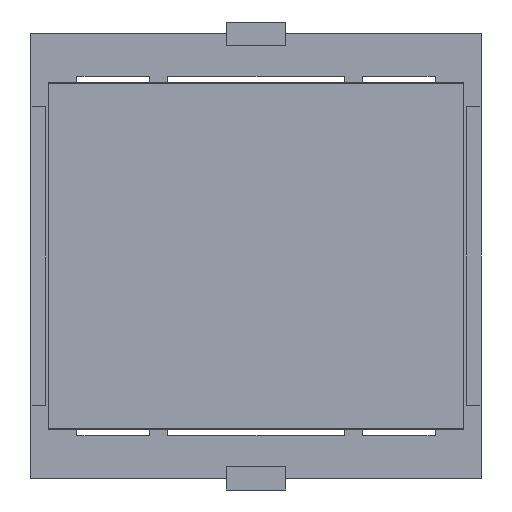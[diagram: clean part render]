
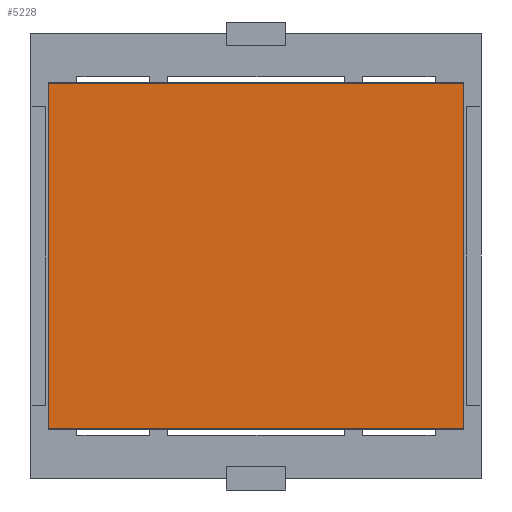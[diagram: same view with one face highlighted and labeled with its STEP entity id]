
A CAD part, front view. The second image highlights one B-rep face of the part: STEP entity #5228.
In plain terms, the highlighted planar face has unit normal (0, -1, 0).
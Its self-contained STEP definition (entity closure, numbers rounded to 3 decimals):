
#551 = EDGE_CURVE ( 'NONE', #4915, #5434, #3872, .T. ) ;
#577 = DIRECTION ( 'NONE',  ( 0., 0., 1. ) ) ;
#782 = ORIENTED_EDGE ( 'NONE', *, *, #6427, .F. ) ;
#1248 = CARTESIAN_POINT ( 'NONE',  ( -15.712, -18.701, 26.207 ) ) ;
#1826 = DIRECTION ( 'NONE',  ( 0., 1., 0. ) ) ;
#2024 = LINE ( 'NONE', #2562, #3904 ) ;
#2099 = CARTESIAN_POINT ( 'NONE',  ( 19.086, -18.701, 26.207 ) ) ;
#2246 = EDGE_LOOP ( 'NONE', ( #4911, #782, #6418, #5251 ) ) ;
#2267 = CARTESIAN_POINT ( 'NONE',  ( -15.712, -18.701, 26.207 ) ) ;
#2515 = EDGE_CURVE ( 'NONE', #5434, #5206, #2024, .T. ) ;
#2562 = CARTESIAN_POINT ( 'NONE',  ( 19.086, -18.701, -2.749 ) ) ;
#2840 = AXIS2_PLACEMENT_3D ( 'NONE', #2267, #1826, #5616 ) ;
#2943 = VECTOR ( 'NONE', #577, 1000. ) ;
#3438 = VECTOR ( 'NONE', #6109, 1000. ) ;
#3451 = CARTESIAN_POINT ( 'NONE',  ( 19.086, -18.701, -2.749 ) ) ;
#3820 = LINE ( 'NONE', #4886, #2943 ) ;
#3872 = LINE ( 'NONE', #1248, #5574 ) ;
#3904 = VECTOR ( 'NONE', #4725, 1000. ) ;
#4137 = EDGE_CURVE ( 'NONE', #5790, #4915, #3820, .T. ) ;
#4368 = CARTESIAN_POINT ( 'NONE',  ( -15.712, -18.701, -2.749 ) ) ;
#4725 = DIRECTION ( 'NONE',  ( 0., 0., -1. ) ) ;
#4886 = CARTESIAN_POINT ( 'NONE',  ( -15.712, -18.701, -2.749 ) ) ;
#4911 = ORIENTED_EDGE ( 'NONE', *, *, #4137, .F. ) ;
#4915 = VERTEX_POINT ( 'NONE', #5825 ) ;
#5206 = VERTEX_POINT ( 'NONE', #3451 ) ;
#5228 = ADVANCED_FACE ( 'NONE', ( #6707 ), #6636, .F. ) ;
#5251 = ORIENTED_EDGE ( 'NONE', *, *, #551, .F. ) ;
#5434 = VERTEX_POINT ( 'NONE', #2099 ) ;
#5574 = VECTOR ( 'NONE', #5992, 1000. ) ;
#5616 = DIRECTION ( 'NONE',  ( 0., 0., 1. ) ) ;
#5790 = VERTEX_POINT ( 'NONE', #4368 ) ;
#5825 = CARTESIAN_POINT ( 'NONE',  ( -15.712, -18.701, 26.207 ) ) ;
#5992 = DIRECTION ( 'NONE',  ( 1., 0., 0. ) ) ;
#6079 = LINE ( 'NONE', #6598, #3438 ) ;
#6109 = DIRECTION ( 'NONE',  ( -1., 0., 0. ) ) ;
#6418 = ORIENTED_EDGE ( 'NONE', *, *, #2515, .F. ) ;
#6427 = EDGE_CURVE ( 'NONE', #5206, #5790, #6079, .T. ) ;
#6598 = CARTESIAN_POINT ( 'NONE',  ( -15.712, -18.701, -2.749 ) ) ;
#6636 = PLANE ( 'NONE',  #2840 ) ;
#6707 = FACE_OUTER_BOUND ( 'NONE', #2246, .T. ) ;
